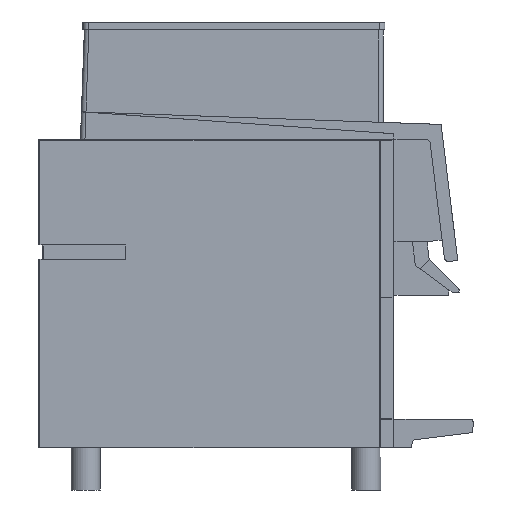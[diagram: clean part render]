
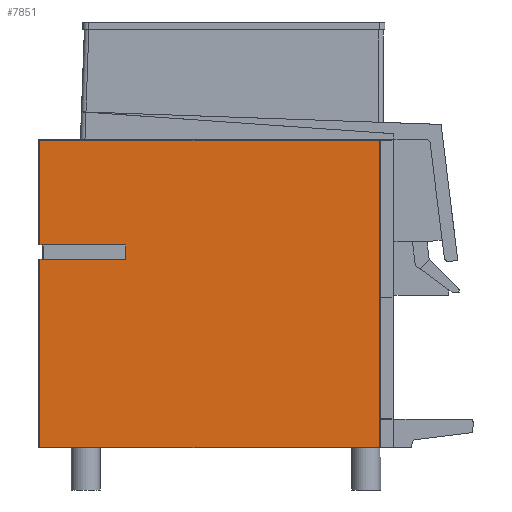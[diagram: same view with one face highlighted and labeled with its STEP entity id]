
A CAD part, left-side view. The second image highlights one B-rep face of the part: STEP entity #7851.
In plain terms, the highlighted planar face has unit normal (-1, 0, 0).
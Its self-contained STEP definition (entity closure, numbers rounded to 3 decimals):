
#759=ORIENTED_EDGE('',*,*,#2312,.F.);
#760=ORIENTED_EDGE('',*,*,#2374,.T.);
#761=ORIENTED_EDGE('',*,*,#2375,.T.);
#762=ORIENTED_EDGE('',*,*,#2376,.T.);
#763=ORIENTED_EDGE('',*,*,#2377,.F.);
#764=ORIENTED_EDGE('',*,*,#2378,.F.);
#765=ORIENTED_EDGE('',*,*,#2379,.F.);
#766=ORIENTED_EDGE('',*,*,#2380,.T.);
#767=ORIENTED_EDGE('',*,*,#2381,.T.);
#768=ORIENTED_EDGE('',*,*,#2382,.T.);
#2312=EDGE_CURVE('',#3113,#3114,#3630,.T.);
#2374=EDGE_CURVE('',#3113,#3157,#3683,.T.);
#2375=EDGE_CURVE('',#3157,#3158,#3684,.F.);
#2376=EDGE_CURVE('',#3158,#3159,#3685,.F.);
#2377=EDGE_CURVE('',#3160,#3159,#3686,.T.);
#2378=EDGE_CURVE('',#3161,#3160,#3687,.T.);
#2379=EDGE_CURVE('',#3162,#3161,#3688,.T.);
#2380=EDGE_CURVE('',#3162,#3163,#3689,.T.);
#2381=EDGE_CURVE('',#3163,#3164,#3690,.T.);
#2382=EDGE_CURVE('',#3164,#3114,#3691,.F.);
#3113=VERTEX_POINT('',#10822);
#3114=VERTEX_POINT('',#10824);
#3157=VERTEX_POINT('',#10946);
#3158=VERTEX_POINT('',#10948);
#3159=VERTEX_POINT('',#10950);
#3160=VERTEX_POINT('',#10952);
#3161=VERTEX_POINT('',#10954);
#3162=VERTEX_POINT('',#10956);
#3163=VERTEX_POINT('',#10958);
#3164=VERTEX_POINT('',#10960);
#3630=LINE('',#10823,#4277);
#3683=LINE('',#10945,#4330);
#3684=LINE('',#10947,#4331);
#3685=LINE('',#10949,#4332);
#3686=LINE('',#10951,#4333);
#3687=LINE('',#10953,#4334);
#3688=LINE('',#10955,#4335);
#3689=LINE('',#10957,#4336);
#3690=LINE('',#10959,#4337);
#3691=LINE('',#10961,#4338);
#4277=VECTOR('',#9042,1000.);
#4330=VECTOR('',#9147,1000.);
#4331=VECTOR('',#9148,1000.);
#4332=VECTOR('',#9149,1000.);
#4333=VECTOR('',#9150,1000.);
#4334=VECTOR('',#9151,1000.);
#4335=VECTOR('',#9152,1000.);
#4336=VECTOR('',#9153,1000.);
#4337=VECTOR('',#9154,1000.);
#4338=VECTOR('',#9155,1000.);
#4789=EDGE_LOOP('',(#759,#760,#761,#762,#763,#764,#765,#766,#767,#768));
#5124=FACE_BOUND('',#4789,.T.);
#5439=PLANE('',#8247);
#7851=ADVANCED_FACE('',(#5124),#5439,.F.);
#8247=AXIS2_PLACEMENT_3D('',#10944,#9145,#9146);
#9042=DIRECTION('',(0.,1.,0.));
#9145=DIRECTION('',(1.,0.,0.));
#9146=DIRECTION('',(0.,1.,0.));
#9147=DIRECTION('',(0.,0.,1.));
#9148=DIRECTION('',(0.,-1.,0.));
#9149=DIRECTION('',(0.,0.,1.));
#9150=DIRECTION('',(0.,1.,0.));
#9151=DIRECTION('',(0.,1.,0.));
#9152=DIRECTION('',(0.,0.,1.));
#9153=DIRECTION('',(0.,1.,0.));
#9154=DIRECTION('',(0.,1.,0.));
#9155=DIRECTION('',(0.,0.,1.));
#10822=CARTESIAN_POINT('',(-160.,-470.,0.));
#10823=CARTESIAN_POINT('',(-160.,-490.,0.));
#10824=CARTESIAN_POINT('',(-160.,-1.2,0.));
#10944=CARTESIAN_POINT('',(-160.,0.,0.));
#10945=CARTESIAN_POINT('',(-160.,-470.,420.5));
#10946=CARTESIAN_POINT('',(-160.,-470.,424.8));
#10947=CARTESIAN_POINT('',(-160.,0.,424.8));
#10948=CARTESIAN_POINT('',(-160.,-1.2,424.8));
#10949=CARTESIAN_POINT('',(-160.,-1.2,0.));
#10950=CARTESIAN_POINT('',(-160.,-1.2,280.));
#10951=CARTESIAN_POINT('',(-160.,-5.,280.));
#10952=CARTESIAN_POINT('',(-160.,-5.133,280.));
#10953=CARTESIAN_POINT('',(-160.,-120.,280.));
#10954=CARTESIAN_POINT('',(-160.,-120.,280.));
#10955=CARTESIAN_POINT('',(-160.,-120.,260.));
#10956=CARTESIAN_POINT('',(-160.,-120.,260.));
#10957=CARTESIAN_POINT('',(-160.,-120.,260.));
#10958=CARTESIAN_POINT('',(-160.,-5.133,260.));
#10959=CARTESIAN_POINT('',(-160.,-5.,260.));
#10960=CARTESIAN_POINT('',(-160.,-1.2,260.));
#10961=CARTESIAN_POINT('',(-160.,-1.2,0.));
